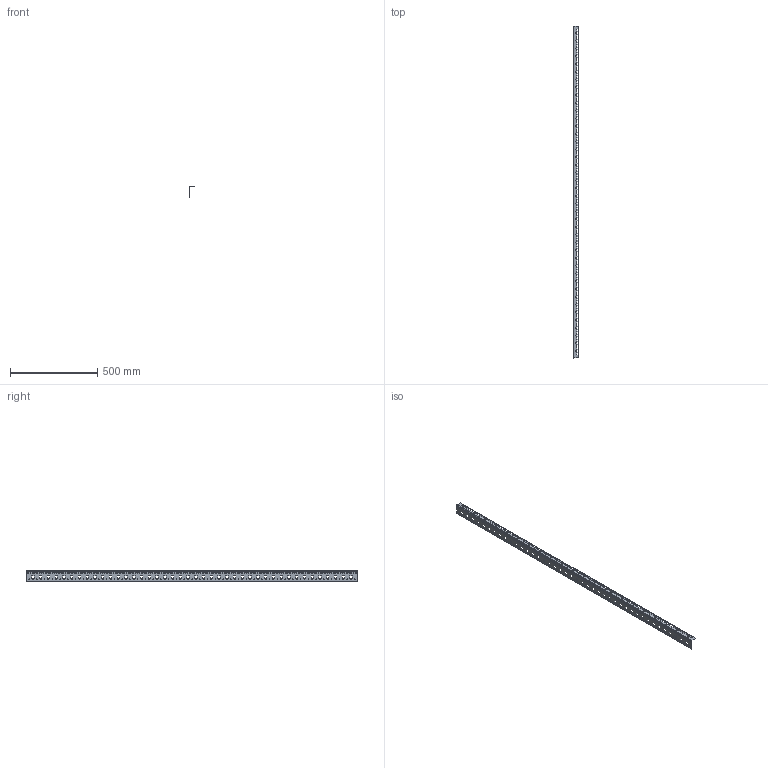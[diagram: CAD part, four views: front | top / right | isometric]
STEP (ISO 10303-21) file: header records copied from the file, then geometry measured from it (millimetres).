
FILE_DESCRIPTION (( 'STEP AP214' ), '1' );
FILE_NAME ('MRD 200 IT 42U Ðåéêà âåðòèêàëüíàÿ 19''''.STEP', '2023-11-18T07:44:37', ( '' ), ( '' ), 'SwSTEP 2.0', 'SolidWorks 2019', '' );
FILE_SCHEMA (( 'AUTOMOTIVE_DESIGN' ));
Length unit declared in the file: millimetre
Products named in the file (1): MRD 200 IT 42U Ðåéêà âåðòèêàëüíàÿ 19''''
Bounding box: 31 x 1902 x 61.5 mm (x, y, z)
Volume: 291486.2 mm3; surface area: 321486.6 mm2
Topology: 1 solids, 1 shells, 1456 faces, 4354 edges, 2900 vertices
Faces by surface type: plane 810, cylinder 646
Entity records: 51044 total; most frequent: CARTESIAN_POINT 8711, ORIENTED_EDGE 8708, DIRECTION 8560, EDGE_CURVE 4354, LINE 3062, VECTOR 3062, VERTEX_POINT 2900, AXIS2_PLACEMENT_3D 2749
